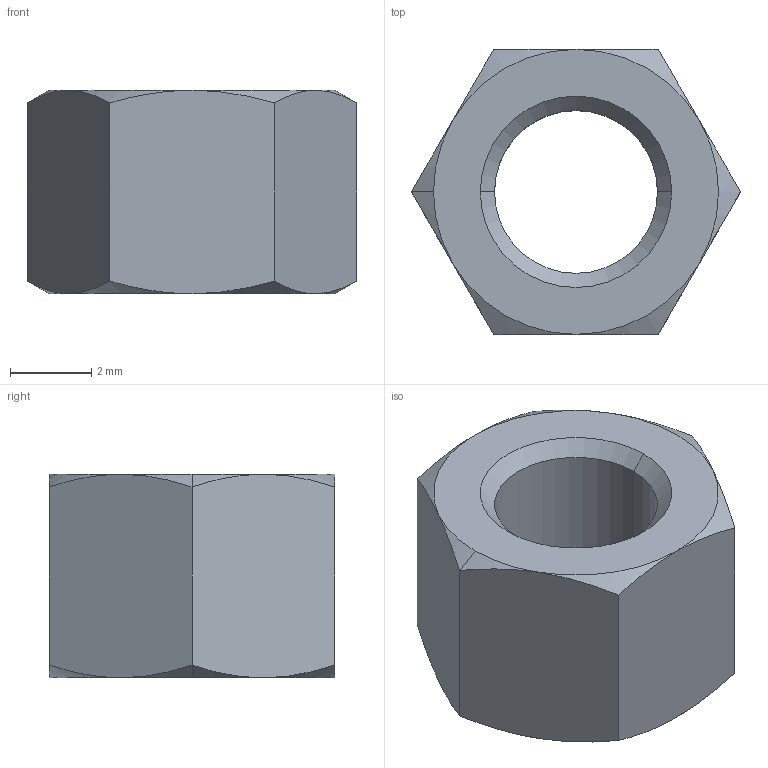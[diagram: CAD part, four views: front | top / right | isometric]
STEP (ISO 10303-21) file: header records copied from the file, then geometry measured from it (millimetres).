
FILE_DESCRIPTION (( 'STEP AP203' ), '1' );
FILE_NAME ('N0503.040-005-NP.step', '2025-02-27T14:41:53', ( '' ), ( '' ), 'SwSTEP 2.0', 'SolidWorks 2019', '' );
FILE_SCHEMA (( 'CONFIG_CONTROL_DESIGN' ));
Length unit declared in the file: millimetre
Products named in the file (1): N0503.040-005-NP
Bounding box: 8.08 x 7 x 5 mm (x, y, z)
Volume: 147 mm3; surface area: 235 mm2
Topology: 1 solids, 1 shells, 28 faces, 60 edges, 34 vertices
Faces by surface type: cone 18, plane 8, cylinder 2
Entity records: 879 total; most frequent: CARTESIAN_POINT 227, ORIENTED_EDGE 120, DIRECTION 116, EDGE_CURVE 60, AXIS2_PLACEMENT_3D 51, VERTEX_POINT 34, EDGE_LOOP 30, ADVANCED_FACE 28
